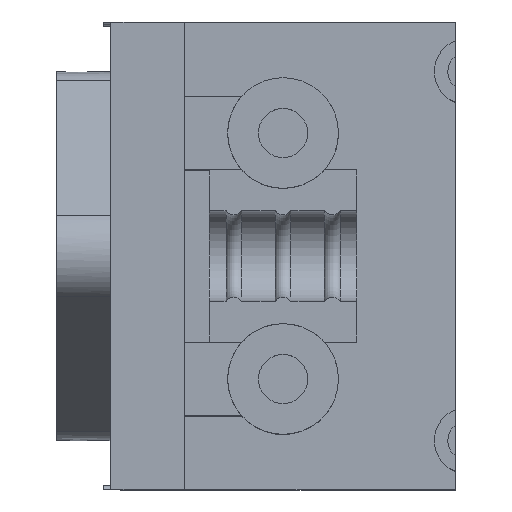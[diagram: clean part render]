
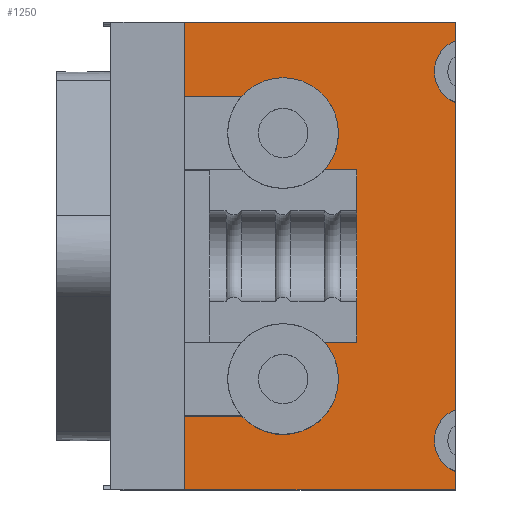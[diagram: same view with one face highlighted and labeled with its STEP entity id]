
A CAD part, top view. The second image highlights one B-rep face of the part: STEP entity #1250.
In plain terms, the highlighted planar face has unit normal (0, 0, 1).
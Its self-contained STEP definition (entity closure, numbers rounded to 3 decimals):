
#832 = EDGE_CURVE('',#833,#835,#837,.T.);
#833 = VERTEX_POINT('',#834);
#834 = CARTESIAN_POINT('',(-15.354,5.,3.));
#835 = VERTEX_POINT('',#836);
#836 = CARTESIAN_POINT('',(-7.5,8.,3.));
#837 = CIRCLE('',#838,4.5);
#838 = AXIS2_PLACEMENT_3D('',#839,#840,#841);
#839 = CARTESIAN_POINT('',(-12.,8.,3.));
#840 = DIRECTION('',(0.,0.,1.));
#841 = DIRECTION('',(1.,0.,-0.));
#859 = EDGE_CURVE('',#835,#860,#862,.T.);
#860 = VERTEX_POINT('',#861);
#861 = CARTESIAN_POINT('',(-8.646,11.,3.));
#862 = CIRCLE('',#863,4.5);
#863 = AXIS2_PLACEMENT_3D('',#864,#865,#866);
#864 = CARTESIAN_POINT('',(-12.,8.,3.));
#865 = DIRECTION('',(0.,0.,1.));
#866 = DIRECTION('',(1.,0.,-0.));
#899 = EDGE_CURVE('',#860,#900,#902,.T.);
#900 = VERTEX_POINT('',#901);
#901 = CARTESIAN_POINT('',(-6.,11.,3.));
#902 = LINE('',#903,#904);
#903 = CARTESIAN_POINT('',(-18.,11.,3.));
#904 = VECTOR('',#905,1.);
#905 = DIRECTION('',(1.,0.,-0.));
#925 = EDGE_CURVE('',#900,#926,#928,.T.);
#926 = VERTEX_POINT('',#927);
#927 = CARTESIAN_POINT('',(-6.,25.,3.));
#928 = LINE('',#929,#930);
#929 = CARTESIAN_POINT('',(-6.,11.,3.));
#930 = VECTOR('',#931,1.);
#931 = DIRECTION('',(-0.,1.,0.));
#1015 = EDGE_CURVE('',#1016,#926,#1018,.T.);
#1016 = VERTEX_POINT('',#1017);
#1017 = CARTESIAN_POINT('',(-8.646,25.,3.));
#1018 = LINE('',#1019,#1020);
#1019 = CARTESIAN_POINT('',(-18.,25.,3.));
#1020 = VECTOR('',#1021,1.);
#1021 = DIRECTION('',(1.,0.,-0.));
#1039 = EDGE_CURVE('',#1016,#1040,#1042,.T.);
#1040 = VERTEX_POINT('',#1041);
#1041 = CARTESIAN_POINT('',(-7.5,28.,3.));
#1042 = CIRCLE('',#1043,4.5);
#1043 = AXIS2_PLACEMENT_3D('',#1044,#1045,#1046);
#1044 = CARTESIAN_POINT('',(-12.,28.,3.));
#1045 = DIRECTION('',(0.,0.,1.));
#1046 = DIRECTION('',(1.,0.,-0.));
#1064 = EDGE_CURVE('',#1040,#1065,#1067,.T.);
#1065 = VERTEX_POINT('',#1066);
#1066 = CARTESIAN_POINT('',(-15.354,31.,3.));
#1067 = CIRCLE('',#1068,4.5);
#1068 = AXIS2_PLACEMENT_3D('',#1069,#1070,#1071);
#1069 = CARTESIAN_POINT('',(-12.,28.,3.));
#1070 = DIRECTION('',(0.,0.,1.));
#1071 = DIRECTION('',(1.,0.,-0.));
#1250 = ADVANCED_FACE('',(#1251),#1348,.T.);
#1251 = FACE_BOUND('',#1252,.T.);
#1252 = EDGE_LOOP('',(#1253,#1263,#1271,#1279,#1288,#1296,#1305,#1313,
    #1321,#1329,#1335,#1336,#1337,#1338,#1339,#1340,#1341,#1342));
#1253 = ORIENTED_EDGE('',*,*,#1254,.T.);
#1254 = EDGE_CURVE('',#1255,#1257,#1259,.T.);
#1255 = VERTEX_POINT('',#1256);
#1256 = CARTESIAN_POINT('',(-23.,5.,3.));
#1257 = VERTEX_POINT('',#1258);
#1258 = CARTESIAN_POINT('',(-23.,-1.,3.));
#1259 = LINE('',#1260,#1261);
#1260 = CARTESIAN_POINT('',(-23.,40.,3.));
#1261 = VECTOR('',#1262,1.);
#1262 = DIRECTION('',(0.,-1.,0.));
#1263 = ORIENTED_EDGE('',*,*,#1264,.F.);
#1264 = EDGE_CURVE('',#1265,#1257,#1267,.T.);
#1265 = VERTEX_POINT('',#1266);
#1266 = CARTESIAN_POINT('',(2.,-1.,3.));
#1267 = LINE('',#1268,#1269);
#1268 = CARTESIAN_POINT('',(12.8,-1.,3.));
#1269 = VECTOR('',#1270,1.);
#1270 = DIRECTION('',(-1.,-0.,0.));
#1271 = ORIENTED_EDGE('',*,*,#1272,.T.);
#1272 = EDGE_CURVE('',#1265,#1273,#1275,.T.);
#1273 = VERTEX_POINT('',#1274);
#1274 = CARTESIAN_POINT('',(2.,0.492,3.));
#1275 = LINE('',#1276,#1277);
#1276 = CARTESIAN_POINT('',(2.,-2.5,3.));
#1277 = VECTOR('',#1278,1.);
#1278 = DIRECTION('',(-0.,1.,0.));
#1279 = ORIENTED_EDGE('',*,*,#1280,.F.);
#1280 = EDGE_CURVE('',#1281,#1273,#1283,.T.);
#1281 = VERTEX_POINT('',#1282);
#1282 = CARTESIAN_POINT('',(2.,5.508,3.));
#1283 = CIRCLE('',#1284,2.7);
#1284 = AXIS2_PLACEMENT_3D('',#1285,#1286,#1287);
#1285 = CARTESIAN_POINT('',(3.,3.,3.));
#1286 = DIRECTION('',(0.,0.,1.));
#1287 = DIRECTION('',(1.,0.,-0.));
#1288 = ORIENTED_EDGE('',*,*,#1289,.T.);
#1289 = EDGE_CURVE('',#1281,#1290,#1292,.T.);
#1290 = VERTEX_POINT('',#1291);
#1291 = CARTESIAN_POINT('',(2.,30.492,3.));
#1292 = LINE('',#1293,#1294);
#1293 = CARTESIAN_POINT('',(2.,-2.5,3.));
#1294 = VECTOR('',#1295,1.);
#1295 = DIRECTION('',(-0.,1.,0.));
#1296 = ORIENTED_EDGE('',*,*,#1297,.F.);
#1297 = EDGE_CURVE('',#1298,#1290,#1300,.T.);
#1298 = VERTEX_POINT('',#1299);
#1299 = CARTESIAN_POINT('',(2.,35.508,3.));
#1300 = CIRCLE('',#1301,2.7);
#1301 = AXIS2_PLACEMENT_3D('',#1302,#1303,#1304);
#1302 = CARTESIAN_POINT('',(3.,33.,3.));
#1303 = DIRECTION('',(0.,0.,1.));
#1304 = DIRECTION('',(1.,0.,-0.));
#1305 = ORIENTED_EDGE('',*,*,#1306,.T.);
#1306 = EDGE_CURVE('',#1298,#1307,#1309,.T.);
#1307 = VERTEX_POINT('',#1308);
#1308 = CARTESIAN_POINT('',(2.,37.,3.));
#1309 = LINE('',#1310,#1311);
#1310 = CARTESIAN_POINT('',(2.,-2.5,3.));
#1311 = VECTOR('',#1312,1.);
#1312 = DIRECTION('',(-0.,1.,0.));
#1313 = ORIENTED_EDGE('',*,*,#1314,.T.);
#1314 = EDGE_CURVE('',#1307,#1315,#1317,.T.);
#1315 = VERTEX_POINT('',#1316);
#1316 = CARTESIAN_POINT('',(-23.,37.,3.));
#1317 = LINE('',#1318,#1319);
#1318 = CARTESIAN_POINT('',(12.8,37.,3.));
#1319 = VECTOR('',#1320,1.);
#1320 = DIRECTION('',(-1.,-0.,0.));
#1321 = ORIENTED_EDGE('',*,*,#1322,.T.);
#1322 = EDGE_CURVE('',#1315,#1323,#1325,.T.);
#1323 = VERTEX_POINT('',#1324);
#1324 = CARTESIAN_POINT('',(-23.,31.,3.));
#1325 = LINE('',#1326,#1327);
#1326 = CARTESIAN_POINT('',(-23.,40.,3.));
#1327 = VECTOR('',#1328,1.);
#1328 = DIRECTION('',(0.,-1.,0.));
#1329 = ORIENTED_EDGE('',*,*,#1330,.T.);
#1330 = EDGE_CURVE('',#1323,#1065,#1331,.T.);
#1331 = LINE('',#1332,#1333);
#1332 = CARTESIAN_POINT('',(-23.,31.,3.));
#1333 = VECTOR('',#1334,1.);
#1334 = DIRECTION('',(1.,0.,-0.));
#1335 = ORIENTED_EDGE('',*,*,#1064,.F.);
#1336 = ORIENTED_EDGE('',*,*,#1039,.F.);
#1337 = ORIENTED_EDGE('',*,*,#1015,.T.);
#1338 = ORIENTED_EDGE('',*,*,#925,.F.);
#1339 = ORIENTED_EDGE('',*,*,#899,.F.);
#1340 = ORIENTED_EDGE('',*,*,#859,.F.);
#1341 = ORIENTED_EDGE('',*,*,#832,.F.);
#1342 = ORIENTED_EDGE('',*,*,#1343,.F.);
#1343 = EDGE_CURVE('',#1255,#833,#1344,.T.);
#1344 = LINE('',#1345,#1346);
#1345 = CARTESIAN_POINT('',(-23.,5.,3.));
#1346 = VECTOR('',#1347,1.);
#1347 = DIRECTION('',(1.,0.,-0.));
#1348 = PLANE('',#1349);
#1349 = AXIS2_PLACEMENT_3D('',#1350,#1351,#1352);
#1350 = CARTESIAN_POINT('',(56.,-4.,3.));
#1351 = DIRECTION('',(0.,0.,1.));
#1352 = DIRECTION('',(1.,0.,-0.));
